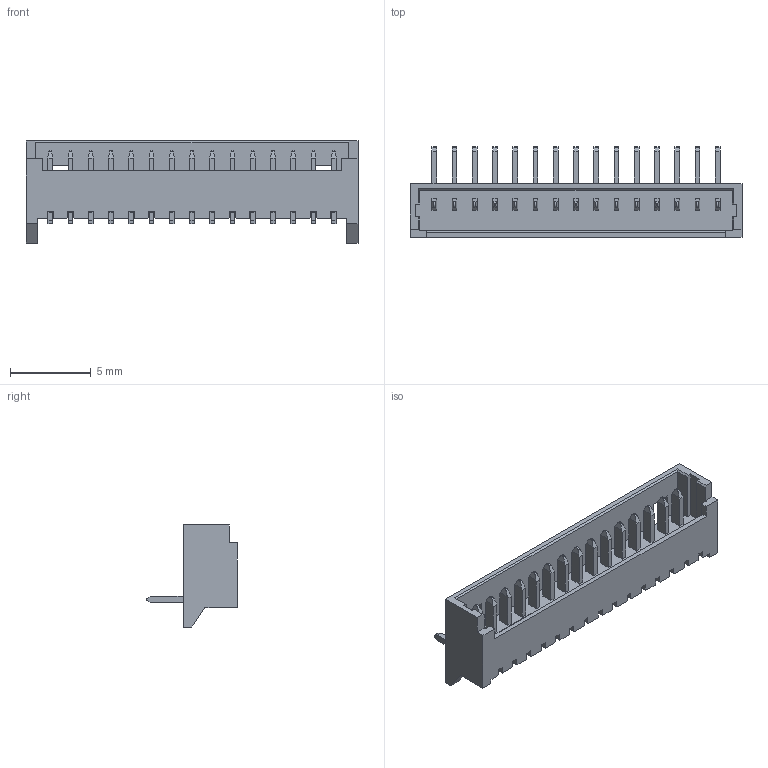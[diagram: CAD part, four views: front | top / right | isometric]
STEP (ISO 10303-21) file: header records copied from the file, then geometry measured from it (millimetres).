
FILE_DESCRIPTION(('CATIA V5 STEP Exchange'),'2;1');
FILE_NAME('\\Erp\共享文件夹\3D文件\小覃\条形连接器-小黄\1.25系列\德利\1.25\NAWD\HC-1.25-15AWD-05(1.25 单排 定位弯针-HCTL).stp','2025-03-20T09:13:15+00:00',('none'),('none'),'CATIA Version 5 Release 20 GA (IN-10)','CATIA V5 STEP AP203','none');
FILE_SCHEMA(('CONFIG_CONTROL_DESIGN'));
Length unit declared in the file: millimetre
Products named in the file (1): Part2
Bounding box: 20.5 x 5.6 x 6.3 mm (x, y, z)
Volume: 168.1 mm3; surface area: 648.8 mm2
Topology: 1 solids, 1 shells, 528 faces, 1494 edges, 994 vertices
Faces by surface type: plane 468, cylinder 60
Entity records: 15844 total; most frequent: CARTESIAN_POINT 3569, ORIENTED_EDGE 2988, DIRECTION 1806, EDGE_CURVE 1494, VECTOR 1372, LINE 1372, VERTEX_POINT 994, EDGE_LOOP 558
